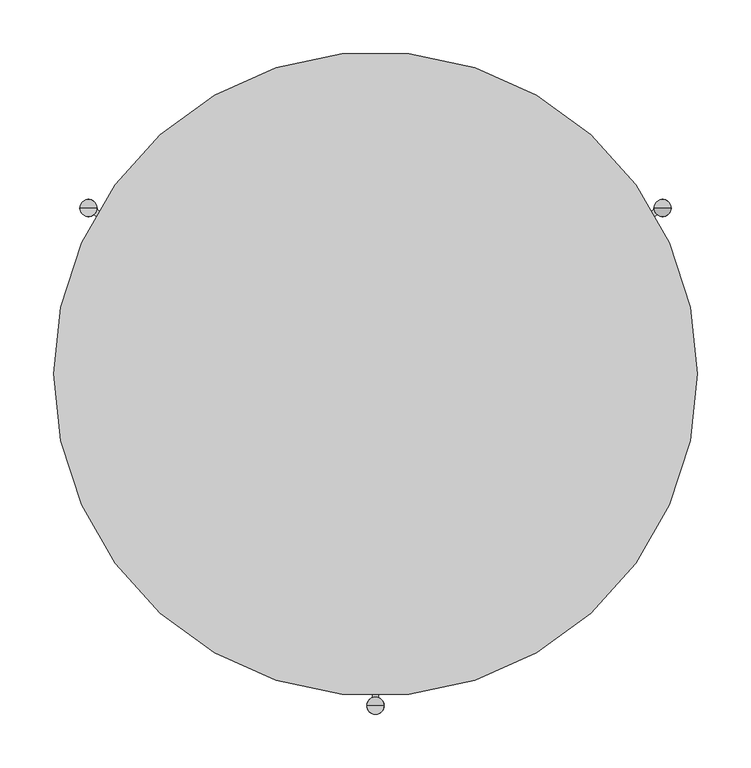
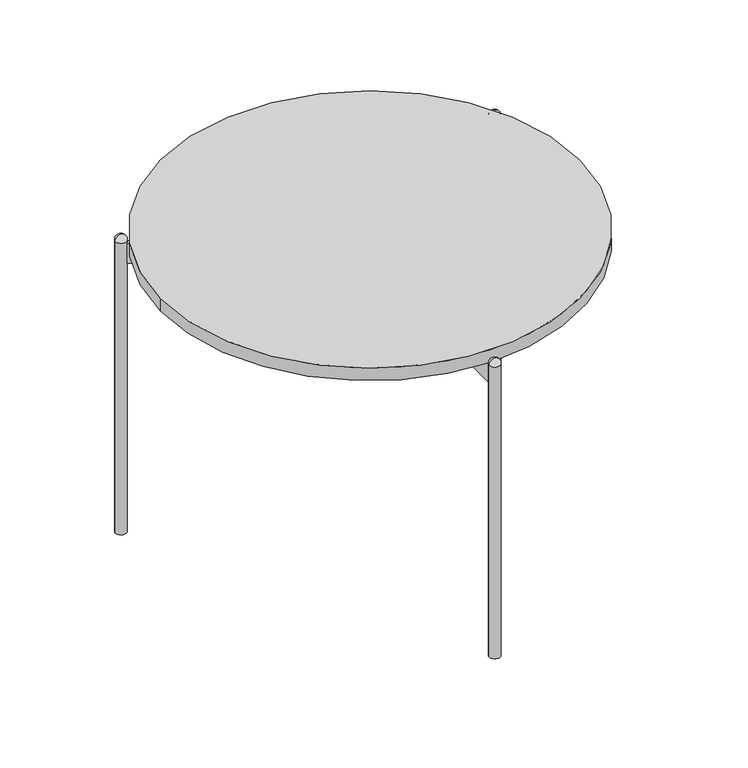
"""IFC4 building model written with IfcOpenShell, lengths in millimetres: furniture geometry, ROUND TABLE_H=45 : EI145B050060A_M."""

from ifc_helpers import new_model, si_unit, point, frame, frame_2d, origin, origin_with_axes, origin_2d, place, context, project, spatial, polyline, circle_curve, ellipse_curve, trimmed, segment, composite_curve, outline, extrude, source, transform, mapped, element, save
from ifc_brep_helpers import plane_surface, revolved_surface, advanced_brep


def furniture_f02ffc08(model_context):
    return source(origin(), model_context, "Body", "SolidModel", [
        extrude(outline(composite_curve([segment(trimmed(circle_curve(origin_2d(), 300.0), [point((-300.0, 0.0))], [point((300.0, 0.0))], False, "CARTESIAN"), True, "CONTINUOUS"), segment(trimmed(circle_curve(origin_2d(), 300.0), [point((300.0, 0.0))], [point((-300.0, 0.0))], False, "CARTESIAN"), True, "CONTINUOUS")], self_intersect=False)), frame((0.0, 0.0, 437.6939464), z_axis=(0.0, 0.0, 1.0), x_axis=(1.0, 0.0, 0.0)), (0.0, 0.0, 1.0), 19.0),
        extrude(outline(composite_curve([segment(polyline([(-19.7129166, 7.9278768), (-262.7443334, 148.2421307)]), True, "CONTINUOUS"), segment(trimmed(circle_curve(frame_2d((-267.6, 154.6)), 8.0), [point((-262.7443334, 148.2421307))], [point((-259.6895089, 153.4066303))], True, "CARTESIAN"), True, "CONTINUOUS"), segment(polyline([(-259.6895089, 153.4066303), (-16.7129166, 13.1240293), (-19.7129166, 7.9278768)]), True, "CONTINUOUS")], self_intersect=False)), frame((0.0, 0.0, 407.6939464), z_axis=(0.0, 0.0, 1.0), x_axis=(1.0, 0.0, 0.0)), (0.0, 0.0, 1.0), 30.0),
        extrude(outline(composite_curve([segment(polyline([(19.7314855, 7.9171561), (16.7314855, 13.1133085), (259.6925075, 153.38692)]), True, "CONTINUOUS"), segment(trimmed(circle_curve(frame_2d((267.6, 154.6)), 8.0), [point((259.6925075, 153.38692))], [point((262.7603454, 148.2299338))], True, "CARTESIAN"), True, "CONTINUOUS"), segment(polyline([(262.7603454, 148.2299338), (19.7314855, 7.9171561)]), True, "CONTINUOUS")], self_intersect=False)), frame((0.0, 0.0, 407.6939464), z_axis=(0.0, 0.0, 1.0), x_axis=(1.0, 0.0, 0.0)), (0.0, 0.0, 1.0), 30.0),
        extrude(outline(composite_curve([segment(polyline([(3.0, -21.0411853), (3.0, -301.5838015)]), True, "CONTINUOUS"), segment(trimmed(circle_curve(frame_2d((0.0, -309.0)), 8.0), [point((3.0, -301.5838015))], [point((-3.0, -301.5838015))], True, "CARTESIAN"), True, "CONTINUOUS"), segment(polyline([(-3.0, -301.5838015), (-3.0, -21.0411853), (3.0, -21.0411853)]), True, "CONTINUOUS")], self_intersect=False)), frame((0.0, 0.0, 407.6939464), z_axis=(0.0, 0.0, 1.0), x_axis=(1.0, 0.0, 0.0)), (0.0, 0.0, 1.0), 30.0),
        advanced_brep(
        [(267.6, 154.6, 449.1666667), (259.6, 154.6, 441.1666667), (275.6, 154.6, 441.1666667), (267.6, 154.6, 441.1666667)],
        [
            (0, 1, circle_curve(frame((267.6, 154.6, 441.1666667), z_axis=(0.0, -1.0, 0.0), x_axis=(1.0, 0.0, 0.0)), 8.0)),
            (1, 2, circle_curve(frame((267.6, 154.6, 441.1666667), z_axis=(0.0, 0.0, 1.0), x_axis=(-1.0, 0.0, 0.0)), 8.0)),
            (2, 0, circle_curve(frame((267.6, 154.6, 441.1666667), z_axis=(0.0, -1.0, 0.0), x_axis=(-1.0, 0.0, 0.0)), 8.0)),
            (2, 1, circle_curve(frame((267.6, 154.6, 441.1666667), z_axis=(0.0, 0.0, 1.0), x_axis=(-1.0, 0.0, 0.0)), 8.0)),
            (1, 3),
            (3, 2),
        ],
        [
            revolved_surface(trimmed(ellipse_curve(frame((267.6, 154.6, 441.1666667), z_axis=(0.0, 1.0, 0.0), x_axis=(1.0, 0.0, 0.0)), 8.0, 8.0), [point((259.6, 154.6, 441.1666667))], [point((267.6, 154.6, 449.1666667))], True, "CARTESIAN"), (267.6, 154.6, 2638.4), (0.0, 0.0, 1.0)),
            plane_surface(frame((267.6, 154.6, 441.1666667), z_axis=(0.0, 0.0, -1.0), x_axis=(-1.0, 0.0, 0.0))),
        ],
        [
            (0, [[1, 2, 3]]),
            (0, [[-3, 4, -1]]),
            (1, [[-2, 5, 6]]),
            (1, [[-4, -6, -5]]),
        ],
    ),
        advanced_brep(
        [(267.6, 154.6, 449.1666667), (259.6, 154.6, 441.1666667), (275.6, 154.6, 441.1666667), (267.6, 154.6, 441.1666667)],
        [
            (0, 1, circle_curve(frame((267.6, 154.6, 441.1666667), z_axis=(0.0, -1.0, 0.0), x_axis=(1.0, 0.0, 0.0)), 8.0)),
            (1, 2, circle_curve(frame((267.6, 154.6, 441.1666667), z_axis=(0.0, 0.0, 1.0), x_axis=(-1.0, 0.0, 0.0)), 8.0)),
            (2, 0, circle_curve(frame((267.6, 154.6, 441.1666667), z_axis=(0.0, -1.0, 0.0), x_axis=(-1.0, 0.0, 0.0)), 8.0)),
            (2, 1, circle_curve(frame((267.6, 154.6, 441.1666667), z_axis=(0.0, 0.0, 1.0), x_axis=(-1.0, 0.0, 0.0)), 8.0)),
            (1, 3),
            (3, 2),
        ],
        [
            revolved_surface(trimmed(ellipse_curve(frame((267.6, 154.6, 441.1666667), z_axis=(0.0, 1.0, 0.0), x_axis=(1.0, 0.0, 0.0)), 8.0, 8.0), [point((259.6, 154.6, 441.1666667))], [point((267.6, 154.6, 449.1666667))], True, "CARTESIAN"), (267.6, 154.6, 2638.4), (0.0, 0.0, 1.0)),
            plane_surface(frame((267.6, 154.6, 441.1666667), z_axis=(0.0, 0.0, -1.0), x_axis=(-1.0, 0.0, 0.0))),
        ],
        [
            (0, [[1, 2, 3]]),
            (0, [[-3, 4, -1]]),
            (1, [[-2, 5, 6]]),
            (1, [[-4, -6, -5]]),
        ],
    ),
        advanced_brep(
        [(-275.6, 154.6, 441.1666667), (-259.6, 154.6, 441.1666667), (-267.6, 154.6, 449.1666667), (-267.6, 154.6, 441.1666667)],
        [
            (0, 1, circle_curve(frame((-267.6, 154.6, 441.1666667), z_axis=(0.0, 0.0, 1.0), x_axis=(1.0, 0.0, 0.0)), 8.0)),
            (1, 2, circle_curve(frame((-267.6, 154.6, 441.1666667), z_axis=(0.0, -1.0, 0.0), x_axis=(-1.0, 0.0, 0.0)), 8.0)),
            (2, 0, circle_curve(frame((-267.6, 154.6, 441.1666667), z_axis=(0.0, -1.0, 0.0), x_axis=(1.0, 0.0, 0.0)), 8.0)),
            (1, 0, circle_curve(frame((-267.6, 154.6, 441.1666667), z_axis=(0.0, 0.0, 1.0), x_axis=(1.0, 0.0, 0.0)), 8.0)),
            (3, 1),
            (0, 3),
        ],
        [
            revolved_surface(trimmed(ellipse_curve(frame((-267.6, 154.6, 441.1666667), z_axis=(0.0, 1.0, 0.0), x_axis=(-1.0, 0.0, 0.0)), 8.0, 8.0), [point((-267.6, 154.6, 449.1666667))], [point((-259.6, 154.6, 441.1666667))], True, "CARTESIAN"), (-267.6, 154.6, 2638.4), (0.0, 0.0, -1.0)),
            plane_surface(frame((-267.6, 154.6, 441.1666667), z_axis=(0.0, 0.0, -1.0), x_axis=(1.0, 0.0, 0.0))),
        ],
        [
            (0, [[1, 2, 3]]),
            (0, [[4, -3, -2]]),
            (1, [[5, -1, 6]]),
            (1, [[-6, -4, -5]]),
        ],
    ),
        advanced_brep(
        [(-8.025371, -309.0, 441.1666667), (7.974629, -309.0, 441.1666667), (-0.025371, -309.0, 449.1666667), (-0.025371, -309.0, 441.1666667)],
        [
            (0, 1, circle_curve(frame((-0.025371, -309.0, 441.1666667), z_axis=(0.0, 0.0, 1.0), x_axis=(1.0, 0.0, 0.0)), 8.0)),
            (1, 2, circle_curve(frame((-0.025371, -309.0, 441.1666667), z_axis=(0.0, -1.0, 0.0), x_axis=(-1.0, 0.0, 0.0)), 8.0)),
            (2, 0, circle_curve(frame((-0.025371, -309.0, 441.1666667), z_axis=(0.0, -1.0, 0.0), x_axis=(1.0, 0.0, 0.0)), 8.0)),
            (1, 0, circle_curve(frame((-0.025371, -309.0, 441.1666667), z_axis=(0.0, 0.0, 1.0), x_axis=(1.0, 0.0, 0.0)), 8.0)),
            (3, 1),
            (0, 3),
        ],
        [
            revolved_surface(trimmed(ellipse_curve(frame((-0.025371, -309.0, 441.1666667), z_axis=(0.0, 1.0, 0.0), x_axis=(-1.0, 0.0, 0.0)), 8.0, 8.0), [point((-0.025371, -309.0, 449.1666667))], [point((7.974629, -309.0, 441.1666667))], True, "CARTESIAN"), (-0.025371, -309.0, 2638.4), (0.0, 0.0, -1.0)),
            plane_surface(frame((-0.025371, -309.0, 441.1666667), z_axis=(0.0, 0.0, -1.0), x_axis=(1.0, 0.0, 0.0))),
        ],
        [
            (0, [[1, 2, 3]]),
            (0, [[4, -3, -2]]),
            (1, [[5, -1, 6]]),
            (1, [[-6, -4, -5]]),
        ],
    ),
        extrude(outline(composite_curve([segment(trimmed(circle_curve(origin_2d(), 23.0), [point((-23.0, 0.0))], [point((23.0, 0.0))], False, "CARTESIAN"), True, "CONTINUOUS"), segment(trimmed(circle_curve(origin_2d(), 23.0), [point((23.0, 0.0))], [point((-23.0, 0.0))], False, "CARTESIAN"), True, "CONTINUOUS")], self_intersect=False)), frame((0.0, 0.0, 407.6939464), z_axis=(0.0, 0.0, 1.0), x_axis=(1.0, 0.0, 0.0)), (0.0, 0.0, 1.0), 30.0),
        extrude(outline(composite_curve([segment(trimmed(circle_curve(frame_2d((-267.6, 154.6)), 8.0), [point((-275.6, 154.6))], [point((-259.6, 154.6))], False, "CARTESIAN"), True, "CONTINUOUS"), segment(trimmed(circle_curve(frame_2d((-267.6, 154.6)), 8.0), [point((-259.6, 154.6))], [point((-275.6, 154.6))], False, "CARTESIAN"), True, "CONTINUOUS")], self_intersect=False)), origin_with_axes(), (0.0, 0.0, 1.0), 441.1666667),
        extrude(outline(composite_curve([segment(trimmed(circle_curve(frame_2d((267.6, 154.6)), 8.0), [point((259.6, 154.6))], [point((275.6, 154.6))], False, "CARTESIAN"), True, "CONTINUOUS"), segment(trimmed(circle_curve(frame_2d((267.6, 154.6)), 8.0), [point((275.6, 154.6))], [point((259.6, 154.6))], False, "CARTESIAN"), True, "CONTINUOUS")], self_intersect=False)), origin_with_axes(), (0.0, 0.0, 1.0), 441.1666667),
        extrude(outline(composite_curve([segment(trimmed(circle_curve(frame_2d((0.0, -309.0)), 8.0), [point((-8.0, -309.0))], [point((8.0, -309.0))], False, "CARTESIAN"), True, "CONTINUOUS"), segment(trimmed(circle_curve(frame_2d((0.0, -309.0)), 8.0), [point((8.0, -309.0))], [point((-8.0, -309.0))], False, "CARTESIAN"), True, "CONTINUOUS")], self_intersect=False)), origin_with_axes(), (0.0, 0.0, 1.0), 441.1666667),
    ])


if __name__ == "__main__":
    model = new_model("IFC4")
    model_context = context("Model", 3, world=origin())
    ifc_project = project(units=[si_unit("LENGTHUNIT", "METRE", prefix="MILLI")], contexts=[model_context])
    site = spatial("IfcSite", under=ifc_project)
    building = spatial("IfcBuilding", under=site)
    placement = place(None, origin())
    furniture_shape = furniture_f02ffc08(model_context)
    element("IfcFurniture", 1, ObjectType="ROUND TABLE_H=45 : EI145B050060A_M", at=placement, inside=building, context=model_context, shape_type="MappedRepresentation", body=[
        mapped(furniture_shape, transform((0.0, 0.0, 0.0), x_axis=(1.0, 0.0, 0.0), y_axis=(0.0, 1.0, 0.0), z_axis=(0.0, 0.0, 1.0))),
    ])
    save(model, "model.ifc")
